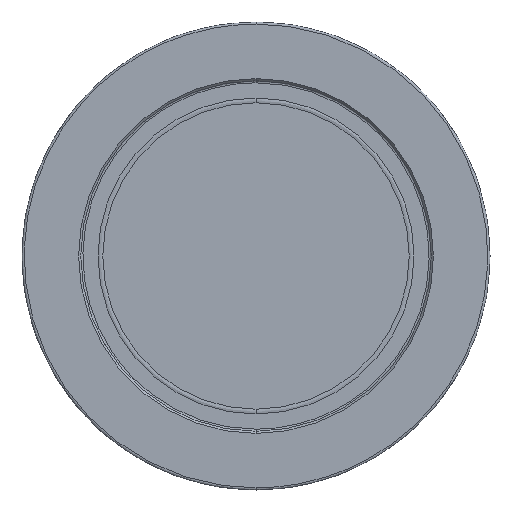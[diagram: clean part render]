
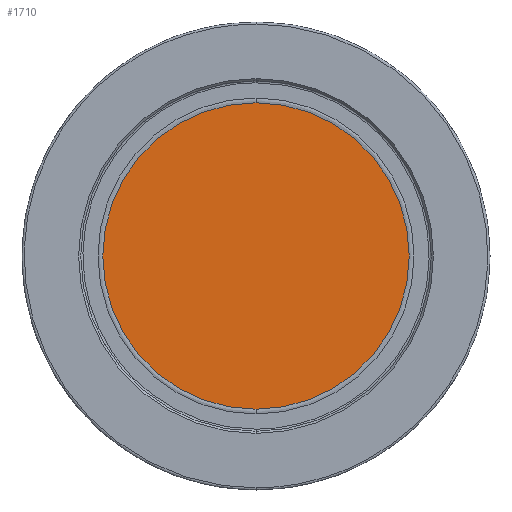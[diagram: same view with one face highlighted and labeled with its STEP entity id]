
A CAD part, front view. The second image highlights one B-rep face of the part: STEP entity #1710.
In plain terms, the highlighted planar face has unit normal (0, -1, 0).
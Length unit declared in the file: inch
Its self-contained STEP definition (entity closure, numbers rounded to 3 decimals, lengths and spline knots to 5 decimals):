
#52 = CARTESIAN_POINT ( 'NONE',  ( 0., 0.40143, 0. ) ) ;
#53 = DIRECTION ( 'NONE',  ( 0., -1., 0. ) ) ;
#54 = DIRECTION ( 'NONE',  ( 0., 0., -1. ) ) ;
#67 = CARTESIAN_POINT ( 'NONE',  ( 0., 0.40143, 0. ) ) ;
#68 = DIRECTION ( 'NONE',  ( 0., -1., 0. ) ) ;
#69 = DIRECTION ( 'NONE',  ( 0., 0., -1. ) ) ;
#529 = CIRCLE ( 'NONE', #1607, 0.709 ) ;
#549 = FACE_OUTER_BOUND ( 'NONE', #1310, .T. ) ;
#556 = CIRCLE ( 'NONE', #1603, 0.709 ) ;
#657 = EDGE_CURVE ( 'NONE', #1274, #1275, #556, .T. ) ;
#662 = EDGE_CURVE ( 'NONE', #1275, #1274, #529, .T. ) ;
#784 = CARTESIAN_POINT ( 'NONE',  ( 0., 0.40143, -0.709 ) ) ;
#785 = CARTESIAN_POINT ( 'NONE',  ( 0., 0.40143, 0.709 ) ) ;
#1088 = AXIS2_PLACEMENT_3D ( 'NONE', #1415, #1420, #1421 ) ;
#1120 = ORIENTED_EDGE ( 'NONE', *, *, #657, .T. ) ;
#1125 = ORIENTED_EDGE ( 'NONE', *, *, #662, .T. ) ;
#1274 = VERTEX_POINT ( 'NONE', #784 ) ;
#1275 = VERTEX_POINT ( 'NONE', #785 ) ;
#1310 = EDGE_LOOP ( 'NONE', ( #1120, #1125 ) ) ;
#1415 = CARTESIAN_POINT ( 'NONE',  ( 0., 0.40143, 0. ) ) ;
#1417 = PLANE ( 'NONE',  #1088 ) ;
#1420 = DIRECTION ( 'NONE',  ( 0., 1., 0. ) ) ;
#1421 = DIRECTION ( 'NONE',  ( 0., 0., 1. ) ) ;
#1603 = AXIS2_PLACEMENT_3D ( 'NONE', #52, #53, #54 ) ;
#1607 = AXIS2_PLACEMENT_3D ( 'NONE', #67, #68, #69 ) ;
#1710 = ADVANCED_FACE ( 'NONE', ( #549 ), #1417, .F. ) ;
